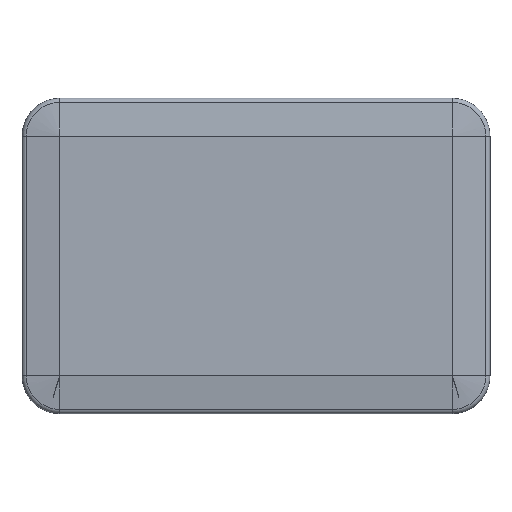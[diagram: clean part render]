
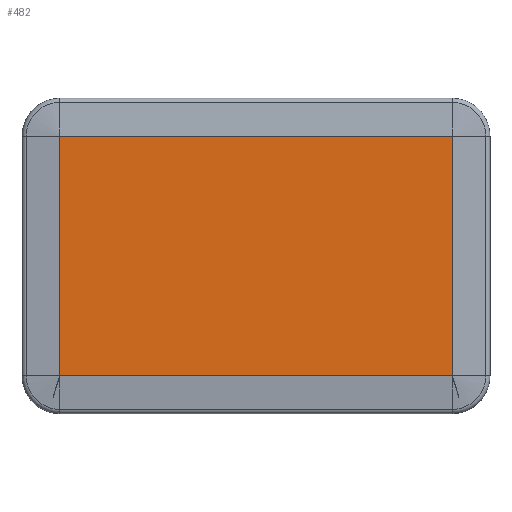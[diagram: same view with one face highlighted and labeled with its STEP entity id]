
A CAD part, top view. The second image highlights one B-rep face of the part: STEP entity #482.
In plain terms, the highlighted planar face has unit normal (0, 0, 1).
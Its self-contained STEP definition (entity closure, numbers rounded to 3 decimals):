
#26=PLANE('',#536);
#38=LINE('',#786,#74);
#42=LINE('',#793,#78);
#52=LINE('',#817,#88);
#54=LINE('',#820,#90);
#74=VECTOR('',#624,25.23);
#78=VECTOR('',#632,41.3);
#88=VECTOR('',#658,25.23);
#90=VECTOR('',#662,41.3);
#134=FACE_OUTER_BOUND('',#168,.T.);
#168=EDGE_LOOP('',(#397,#398,#399,#400));
#229=VERTEX_POINT('',#783);
#230=VERTEX_POINT('',#785);
#231=VERTEX_POINT('',#791);
#237=VERTEX_POINT('',#815);
#274=EDGE_CURVE('',#229,#230,#38,.T.);
#278=EDGE_CURVE('',#231,#229,#42,.T.);
#290=EDGE_CURVE('',#237,#231,#52,.T.);
#292=EDGE_CURVE('',#230,#237,#54,.T.);
#397=ORIENTED_EDGE('',*,*,#290,.F.);
#398=ORIENTED_EDGE('',*,*,#292,.F.);
#399=ORIENTED_EDGE('',*,*,#274,.F.);
#400=ORIENTED_EDGE('',*,*,#278,.F.);
#482=ADVANCED_FACE('',(#134),#26,.T.);
#536=AXIS2_PLACEMENT_3D('',#828,#672,#673);
#624=DIRECTION('',(0.,-1.,0.));
#632=DIRECTION('',(1.,0.,0.));
#658=DIRECTION('',(0.,1.,0.));
#662=DIRECTION('',(-1.,0.,0.));
#672=DIRECTION('center_axis',(0.,0.,1.));
#673=DIRECTION('ref_axis',(1.,0.,0.));
#783=CARTESIAN_POINT('',(45.3,29.23,8.06));
#785=CARTESIAN_POINT('',(45.3,4.,8.06));
#786=CARTESIAN_POINT('',(45.3,10.308,8.06));
#791=CARTESIAN_POINT('',(4.,29.23,8.06));
#793=CARTESIAN_POINT('',(34.975,29.23,8.06));
#815=CARTESIAN_POINT('',(4.,4.,8.06));
#817=CARTESIAN_POINT('',(4.,22.923,8.06));
#820=CARTESIAN_POINT('',(14.325,4.,8.06));
#828=CARTESIAN_POINT('Origin',(24.65,16.615,8.06));
